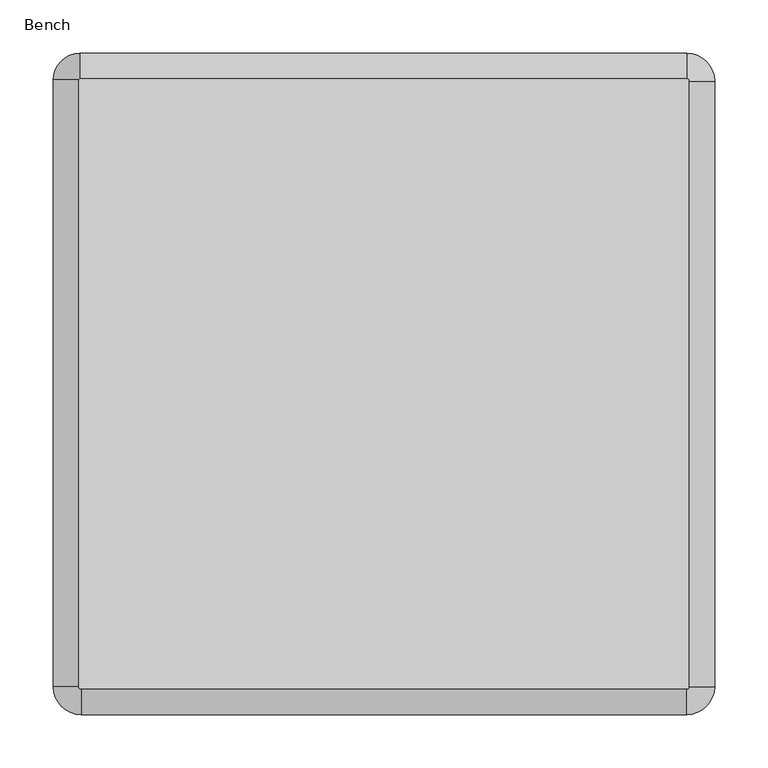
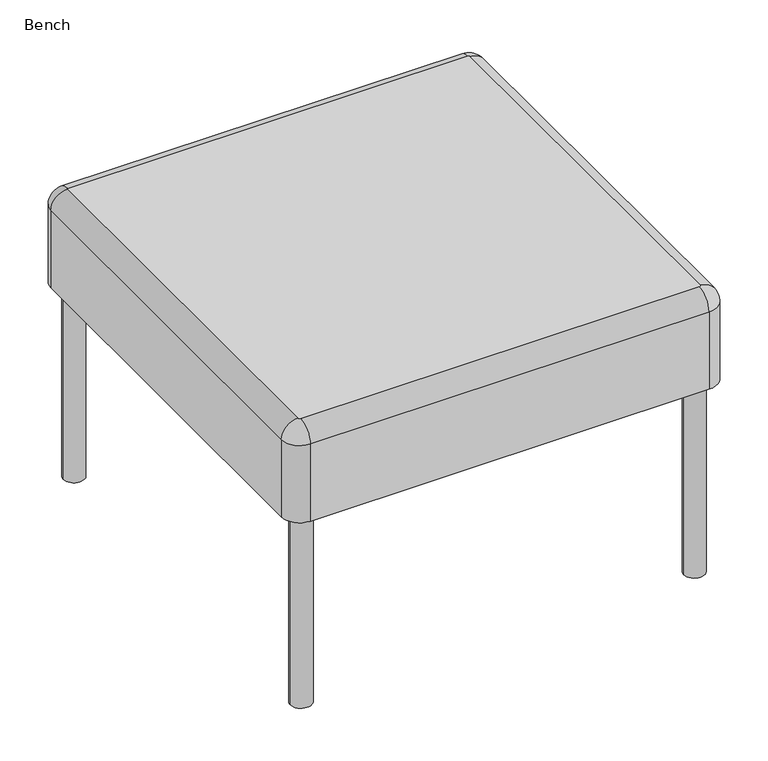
"""IFC4 building model written with IfcOpenShell, lengths in millimetres: furniture geometry, Noora : Bench."""

from ifc_helpers import new_model, si_unit, point, frame, frame_2d, origin, origin_with_axes, place, context, project, spatial, circle_curve, ellipse_curve, trimmed, segment, composite_curve, outline, extrude, source, transform, mapped, element, save
from ifc_brep_helpers import plane_surface, cylinder_surface, revolved_surface, advanced_brep


def bench_625b1216(model_context):
    return source(origin(), model_context, "Body", "SolidModel", [
        advanced_brep(
        [(24.0, 26.0, 431.0), (26.0, 24.0, 431.0), (594.0, 24.0, 431.0), (596.0, 26.0, 431.0), (596.0, 594.0, 431.0), (594.0, 596.0, 431.0), (25.0, 596.0, 431.0), (24.0, 595.0, 431.0), (594.0, 620.0, 291.0), (620.0, 594.0, 291.0), (620.0, 26.0, 291.0), (594.0, 0.0, 291.0), (26.0, 0.0, 291.0), (0.0, 26.0, 291.0), (0.0, 595.0, 291.0), (25.0, 620.0, 291.0), (25.0, 620.0, 407.0), (594.0, 620.0, 407.0), (0.0, 595.0, 407.0), (0.0, 26.0, 407.0), (26.0, 0.0, 407.0), (594.0, 0.0, 407.0), (620.0, 26.0, 407.0), (620.0, 594.0, 407.0)],
        [
            (0, 1, circle_curve(frame((26.0, 26.0, 431.0), z_axis=(0.0, 0.0, 1.0), x_axis=(0.0, -1.0, 0.0)), 2.0)),
            (1, 2),
            (2, 3, circle_curve(frame((594.0, 26.0, 431.0), z_axis=(0.0, 0.0, 1.0), x_axis=(1.0, 0.0, 0.0)), 2.0)),
            (3, 4),
            (4, 5, circle_curve(frame((594.0, 594.0, 431.0), z_axis=(0.0, 0.0, 1.0), x_axis=(0.0, 1.0, 0.0)), 2.0)),
            (5, 6),
            (6, 7, circle_curve(frame((25.0, 595.0, 431.0), z_axis=(0.0, 0.0, 1.0), x_axis=(-1.0, 0.0, 0.0)), 1.0)),
            (7, 0),
            (8, 9, circle_curve(frame((594.0, 594.0, 291.0), z_axis=(0.0, 0.0, -1.0), x_axis=(1.0, 0.0, 0.0)), 26.0)),
            (9, 10),
            (10, 11, circle_curve(frame((594.0, 26.0, 291.0), z_axis=(0.0, 0.0, -1.0), x_axis=(1.0, 0.0, 0.0)), 26.0)),
            (11, 12),
            (12, 13, circle_curve(frame((26.0, 26.0, 291.0), z_axis=(0.0, 0.0, -1.0), x_axis=(1.0, 0.0, 0.0)), 26.0)),
            (13, 14),
            (14, 15, circle_curve(frame((25.0, 595.0, 291.0), z_axis=(0.0, 0.0, -1.0), x_axis=(1.0, 0.0, 0.0)), 25.0)),
            (15, 8),
            (15, 16),
            (16, 17),
            (17, 8),
            (14, 18),
            (18, 16, circle_curve(frame((25.0, 595.0, 407.0), z_axis=(0.0, 0.0, -1.0), x_axis=(1.0, 0.0, 0.0)), 25.0)),
            (13, 19),
            (19, 18),
            (12, 20),
            (20, 19, circle_curve(frame((26.0, 26.0, 407.0), z_axis=(0.0, 0.0, -1.0), x_axis=(1.0, 0.0, 0.0)), 26.0)),
            (11, 21),
            (21, 20),
            (10, 22),
            (22, 21, circle_curve(frame((594.0, 26.0, 407.0), z_axis=(0.0, 0.0, -1.0), x_axis=(1.0, 0.0, 0.0)), 26.0)),
            (9, 23),
            (23, 22),
            (17, 23, circle_curve(frame((594.0, 594.0, 407.0), z_axis=(0.0, 0.0, -1.0), x_axis=(1.0, 0.0, 0.0)), 26.0)),
            (0, 19, circle_curve(frame((24.0, 26.0, 407.0), z_axis=(0.0, -1.0, 0.0), x_axis=(1.0, 0.0, 0.0)), 24.0)),
            (20, 1, circle_curve(frame((26.0, 24.0, 407.0), z_axis=(-1.0, 0.0, 0.0), x_axis=(0.0, 1.0, 0.0)), 24.0)),
            (7, 18, circle_curve(frame((24.0, 595.0, 407.0), z_axis=(0.0, -1.0, 0.0), x_axis=(1.0, 0.0, 0.0)), 24.0)),
            (6, 16, circle_curve(frame((25.0, 596.0, 407.0), z_axis=(-1.0, 0.0, 0.0), x_axis=(0.0, -1.0, 0.0)), 24.0)),
            (5, 17, circle_curve(frame((594.0, 596.0, 407.0), z_axis=(-1.0, 0.0, 0.0), x_axis=(0.0, -1.0, 0.0)), 24.0)),
            (4, 23, circle_curve(frame((596.0, 594.0, 407.0), z_axis=(0.0, 1.0, 0.0), x_axis=(-1.0, 0.0, 0.0)), 24.0)),
            (3, 22, circle_curve(frame((596.0, 26.0, 407.0), z_axis=(0.0, 1.0, 0.0), x_axis=(-1.0, 0.0, 0.0)), 24.0)),
            (2, 21, circle_curve(frame((594.0, 24.0, 407.0), z_axis=(1.0, 0.0, 0.0), x_axis=(0.0, 1.0, 0.0)), 24.0)),
        ],
        [
            plane_surface(frame((0.0, 620.0, 431.0), z_axis=(0.0, 0.0, 1.0), x_axis=(-1.0, 0.0, 0.0))),
            plane_surface(frame((0.0, 620.0, 291.0), z_axis=(0.0, 0.0, -1.0), x_axis=(1.0, 0.0, 0.0))),
            plane_surface(frame((594.0, 620.0, 431.0), z_axis=(0.0, 1.0, 0.0), x_axis=(0.0, 0.0, -1.0))),
            cylinder_surface(frame((25.0, 595.0, 291.0), z_axis=(0.0, 0.0, 1.0), x_axis=(1.0, 0.0, 0.0)), 25.0),
            plane_surface(frame((0.0, 595.0, 431.0), z_axis=(-1.0, 0.0, 0.0), x_axis=(0.0, 0.0, -1.0))),
            cylinder_surface(frame((26.0, 26.0, 291.0), z_axis=(0.0, 0.0, 1.0), x_axis=(1.0, 0.0, 0.0)), 26.0),
            plane_surface(frame((26.0, 0.0, 431.0), z_axis=(0.0, -1.0, 0.0), x_axis=(0.0, 0.0, -1.0))),
            cylinder_surface(frame((594.0, 26.0, 291.0), z_axis=(0.0, 0.0, 1.0), x_axis=(1.0, 0.0, 0.0)), 26.0),
            plane_surface(frame((620.0, 26.0, 431.0), z_axis=(1.0, 0.0, 0.0), x_axis=(0.0, 0.0, -1.0))),
            cylinder_surface(frame((594.0, 594.0, 291.0), z_axis=(0.0, 0.0, 1.0), x_axis=(1.0, 0.0, 0.0)), 26.0),
            revolved_surface(trimmed(ellipse_curve(frame((26.0, 24.0, 407.0), z_axis=(1.0, 0.0, 0.0), x_axis=(0.0, 1.0, 0.0)), 24.0, 24.0), [point((26.0, 24.0, 431.0))], [point((26.0, 0.0, 407.0))], True, "CARTESIAN"), (26.0, 26.0, 291.0), (0.0, 0.0, -1.0)),
            cylinder_surface(frame((24.0, 26.0, 407.0), z_axis=(0.0, 1.0, 0.0), x_axis=(1.0, 0.0, 0.0)), 24.0),
            revolved_surface(trimmed(ellipse_curve(frame((24.0, 595.0, 407.0), z_axis=(0.0, -1.0, 0.0), x_axis=(1.0, 0.0, 0.0)), 24.0, 24.0), [point((24.0, 595.0, 431.0))], [point((0.0, 595.0, 407.0))], True, "CARTESIAN"), (25.0, 595.0, 291.0), (0.0, 0.0, -1.0)),
            cylinder_surface(frame((25.0, 596.0, 407.0), z_axis=(1.0, 0.0, 0.0), x_axis=(0.0, -1.0, 0.0)), 24.0),
            revolved_surface(trimmed(ellipse_curve(frame((594.0, 596.0, 407.0), z_axis=(-1.0, 0.0, 0.0), x_axis=(0.0, -1.0, 0.0)), 24.0, 24.0), [point((594.0, 596.0, 431.0))], [point((594.0, 620.0, 407.0))], True, "CARTESIAN"), (594.0, 594.0, 291.0), (0.0, 0.0, -1.0)),
            cylinder_surface(frame((596.0, 594.0, 407.0), z_axis=(0.0, -1.0, 0.0), x_axis=(-1.0, 0.0, 0.0)), 24.0),
            revolved_surface(trimmed(ellipse_curve(frame((596.0, 26.0, 407.0), z_axis=(0.0, 1.0, 0.0), x_axis=(-1.0, 0.0, 0.0)), 24.0, 24.0), [point((596.0, 26.0, 431.0))], [point((620.0, 26.0, 407.0))], True, "CARTESIAN"), (594.0, 26.0, 291.0), (0.0, 0.0, -1.0)),
            cylinder_surface(frame((594.0, 24.0, 407.0), z_axis=(-1.0, 0.0, 0.0), x_axis=(0.0, 1.0, 0.0)), 24.0),
        ],
        [
            (0, [[1, 2, 3, 4, 5, 6, 7, 8]]),
            (1, [[9, 10, 11, 12, 13, 14, 15, 16]]),
            (2, [[-16, 17, 18, 19]]),
            (3, [[-15, 20, 21, -17]]),
            (4, [[-14, 22, 23, -20]]),
            (5, [[-13, 24, 25, -22]]),
            (6, [[-12, 26, 27, -24]]),
            (7, [[-11, 28, 29, -26]]),
            (8, [[-10, 30, 31, -28]]),
            (9, [[-9, -19, 32, -30]]),
            (10, [[33, -25, 34, -1]]),
            (11, [[-33, -8, 35, -23]]),
            (12, [[-35, -7, 36, -21]]),
            (13, [[-36, -6, 37, -18]]),
            (14, [[-37, -5, 38, -32]]),
            (15, [[-38, -4, 39, -31]]),
            (16, [[-39, -3, 40, -29]]),
            (17, [[-34, -27, -40, -2]]),
        ],
    ),
        extrude(outline(composite_curve([segment(trimmed(circle_curve(frame_2d((30.0, 590.0)), 15.0), [point((15.0, 590.0))], [point((45.0, 590.0))], False, "CARTESIAN"), True, "CONTINUOUS"), segment(trimmed(circle_curve(frame_2d((30.0, 590.0)), 15.0), [point((45.0, 590.0))], [point((15.0, 590.0))], False, "CARTESIAN"), True, "CONTINUOUS")], self_intersect=False)), origin_with_axes(), (0.0, 0.0, 1.0), 290.0),
        extrude(outline(composite_curve([segment(trimmed(circle_curve(frame_2d((30.0, 30.0)), 15.0), [point((15.0, 30.0))], [point((45.0, 30.0))], False, "CARTESIAN"), True, "CONTINUOUS"), segment(trimmed(circle_curve(frame_2d((30.0, 30.0)), 15.0), [point((45.0, 30.0))], [point((15.0, 30.0))], False, "CARTESIAN"), True, "CONTINUOUS")], self_intersect=False)), origin_with_axes(), (0.0, 0.0, 1.0), 290.0),
        extrude(outline(composite_curve([segment(trimmed(circle_curve(frame_2d((590.0, 30.0)), 15.0), [point((575.0, 30.0))], [point((605.0, 30.0))], False, "CARTESIAN"), True, "CONTINUOUS"), segment(trimmed(circle_curve(frame_2d((590.0, 30.0)), 15.0), [point((605.0, 30.0))], [point((575.0, 30.0))], False, "CARTESIAN"), True, "CONTINUOUS")], self_intersect=False)), origin_with_axes(), (0.0, 0.0, 1.0), 290.0),
        extrude(outline(composite_curve([segment(trimmed(circle_curve(frame_2d((590.0, 590.0)), 15.0), [point((575.0, 590.0))], [point((605.0, 590.0))], False, "CARTESIAN"), True, "CONTINUOUS"), segment(trimmed(circle_curve(frame_2d((590.0, 590.0)), 15.0), [point((605.0, 590.0))], [point((575.0, 590.0))], False, "CARTESIAN"), True, "CONTINUOUS")], self_intersect=False)), origin_with_axes(), (0.0, 0.0, 1.0), 290.0),
    ])


if __name__ == "__main__":
    model = new_model("IFC4")
    model_context = context("Model", 3, world=origin())
    ifc_project = project(units=[si_unit("LENGTHUNIT", "METRE", prefix="MILLI")], contexts=[model_context])
    site = spatial("IfcSite", under=ifc_project)
    building = spatial("IfcBuilding", under=site)
    placement = place(None, origin())
    bench_shape = bench_625b1216(model_context)
    element("IfcFurniture", 1, ObjectType="Noora : Bench", at=placement, inside=building, context=model_context, shape_type="MappedRepresentation", body=[
        mapped(bench_shape, transform((0.0, 0.0, 0.0), x_axis=(1.0, 0.0, 0.0), y_axis=(0.0, 1.0, 0.0), z_axis=(0.0, 0.0, 1.0))),
    ])
    save(model, "model.ifc")
